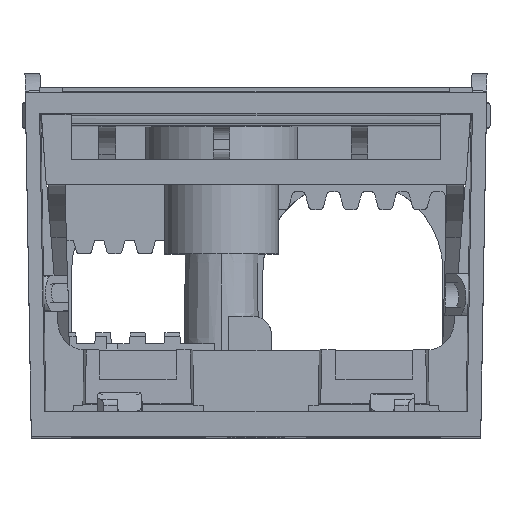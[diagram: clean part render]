
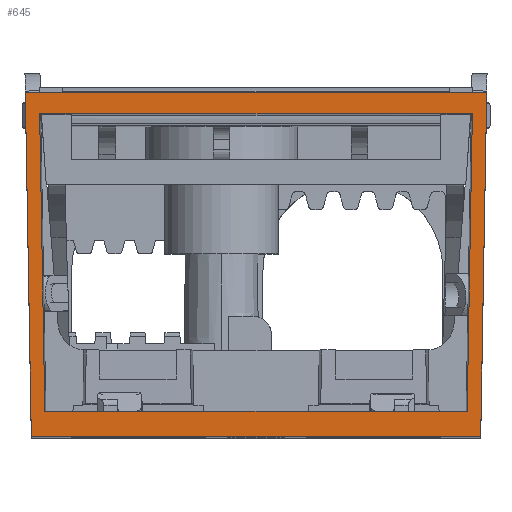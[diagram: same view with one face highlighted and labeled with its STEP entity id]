
A CAD part, top view. The second image highlights one B-rep face of the part: STEP entity #645.
In plain terms, the highlighted planar face has unit normal (0, 0, 1).
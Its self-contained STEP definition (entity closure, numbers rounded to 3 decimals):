
#38 = ORIENTED_EDGE ( 'NONE', *, *, #19101, .T. ) ;
#257 = DIRECTION ( 'NONE',  ( 0.017, 1., 0. ) ) ;
#549 = VERTEX_POINT ( 'NONE', #10194 ) ;
#645 = ADVANCED_FACE ( 'NONE', ( #21296, #4784 ), #10317, .T. ) ;
#1089 = CARTESIAN_POINT ( 'NONE',  ( -7.668, 5.982, 10.194 ) ) ;
#1183 = ORIENTED_EDGE ( 'NONE', *, *, #9588, .T. ) ;
#1219 = DIRECTION ( 'NONE',  ( 0., 0., 1. ) ) ;
#1267 = DIRECTION ( 'NONE',  ( 0.017, -1., 0. ) ) ;
#1452 = DIRECTION ( 'NONE',  ( 0., 1., 0. ) ) ;
#2230 = VECTOR ( 'NONE', #257, 1000. ) ;
#3241 = EDGE_CURVE ( 'NONE', #10849, #3573, #12952, .T. ) ;
#3261 = EDGE_CURVE ( 'NONE', #3573, #9317, #14620, .T. ) ;
#3573 = VERTEX_POINT ( 'NONE', #18519 ) ;
#3787 = CARTESIAN_POINT ( 'NONE',  ( 24.186, 29.259, 10.194 ) ) ;
#4423 = VERTEX_POINT ( 'NONE', #19016 ) ;
#4784 = FACE_OUTER_BOUND ( 'NONE', #11031, .T. ) ;
#5591 = VECTOR ( 'NONE', #21743, 1000. ) ;
#6078 = ORIENTED_EDGE ( 'NONE', *, *, #3261, .T. ) ;
#6848 = CARTESIAN_POINT ( 'NONE',  ( -7.968, 5.982, 10.194 ) ) ;
#6870 = EDGE_CURVE ( 'NONE', #549, #11576, #8957, .T. ) ;
#8278 = LINE ( 'NONE', #6848, #20443 ) ;
#8503 = EDGE_CURVE ( 'NONE', #9780, #11576, #14303, .T. ) ;
#8857 = EDGE_CURVE ( 'NONE', #4423, #9780, #11260, .T. ) ;
#8957 = LINE ( 'NONE', #10518, #5591 ) ;
#9236 = CARTESIAN_POINT ( 'NONE',  ( 25.52, 30.782, 10.194 ) ) ;
#9317 = VERTEX_POINT ( 'NONE', #20067 ) ;
#9449 = VECTOR ( 'NONE', #18547, 1000. ) ;
#9466 = CARTESIAN_POINT ( 'NONE',  ( -6.667, 6.305, 10.194 ) ) ;
#9493 = VECTOR ( 'NONE', #21345, 1000. ) ;
#9588 = EDGE_CURVE ( 'NONE', #9317, #10184, #11827, .T. ) ;
#9780 = VERTEX_POINT ( 'NONE', #14170 ) ;
#9857 = ORIENTED_EDGE ( 'NONE', *, *, #8503, .T. ) ;
#9858 = VECTOR ( 'NONE', #13173, 1000. ) ;
#10184 = VERTEX_POINT ( 'NONE', #1089 ) ;
#10194 = CARTESIAN_POINT ( 'NONE',  ( 23.811, 7.782, 10.194 ) ) ;
#10317 = PLANE ( 'NONE',  #22736 ) ;
#10448 = DIRECTION ( 'NONE',  ( 1., 0., 0. ) ) ;
#10518 = CARTESIAN_POINT ( 'NONE',  ( 23.775, 5.728, 10.194 ) ) ;
#10849 = VERTEX_POINT ( 'NONE', #13481 ) ;
#11031 = EDGE_LOOP ( 'NONE', ( #6078, #1183, #21918, #20524 ) ) ;
#11260 = LINE ( 'NONE', #9466, #9858 ) ;
#11271 = CARTESIAN_POINT ( 'NONE',  ( 24.787, 5.982, 10.194 ) ) ;
#11463 = EDGE_LOOP ( 'NONE', ( #17325, #9857, #15467, #38 ) ) ;
#11576 = VERTEX_POINT ( 'NONE', #3787 ) ;
#11827 = LINE ( 'NONE', #19098, #13312 ) ;
#12687 = EDGE_CURVE ( 'NONE', #10184, #10849, #8278, .T. ) ;
#12952 = LINE ( 'NONE', #11271, #2230 ) ;
#13173 = DIRECTION ( 'NONE',  ( -0.017, 1., 0. ) ) ;
#13312 = VECTOR ( 'NONE', #1267, 1000. ) ;
#13481 = CARTESIAN_POINT ( 'NONE',  ( 24.787, 5.982, 10.194 ) ) ;
#13612 = LINE ( 'NONE', #13952, #18769 ) ;
#13952 = CARTESIAN_POINT ( 'NONE',  ( 23.323, 7.782, 10.194 ) ) ;
#14170 = CARTESIAN_POINT ( 'NONE',  ( -7.067, 29.259, 10.194 ) ) ;
#14303 = LINE ( 'NONE', #17416, #9493 ) ;
#14620 = LINE ( 'NONE', #9236, #9449 ) ;
#15467 = ORIENTED_EDGE ( 'NONE', *, *, #6870, .F. ) ;
#17325 = ORIENTED_EDGE ( 'NONE', *, *, #8857, .T. ) ;
#17416 = CARTESIAN_POINT ( 'NONE',  ( -7.991, 29.259, 10.194 ) ) ;
#17615 = CARTESIAN_POINT ( 'NONE',  ( -7.991, 6.282, 10.194 ) ) ;
#18519 = CARTESIAN_POINT ( 'NONE',  ( 25.22, 30.782, 10.194 ) ) ;
#18547 = DIRECTION ( 'NONE',  ( -1., 0., 0. ) ) ;
#18769 = VECTOR ( 'NONE', #22908, 1000. ) ;
#19016 = CARTESIAN_POINT ( 'NONE',  ( -6.693, 7.782, 10.194 ) ) ;
#19098 = CARTESIAN_POINT ( 'NONE',  ( -8.091, 30.182, 10.194 ) ) ;
#19101 = EDGE_CURVE ( 'NONE', #549, #4423, #13612, .T. ) ;
#20067 = CARTESIAN_POINT ( 'NONE',  ( -8.101, 30.782, 10.194 ) ) ;
#20443 = VECTOR ( 'NONE', #10448, 1000. ) ;
#20524 = ORIENTED_EDGE ( 'NONE', *, *, #3241, .T. ) ;
#21296 = FACE_BOUND ( 'NONE', #11463, .T. ) ;
#21345 = DIRECTION ( 'NONE',  ( 1., 0., 0. ) ) ;
#21743 = DIRECTION ( 'NONE',  ( 0.017, 1., 0. ) ) ;
#21918 = ORIENTED_EDGE ( 'NONE', *, *, #12687, .T. ) ;
#22736 = AXIS2_PLACEMENT_3D ( 'NONE', #17615, #1219, #1452 ) ;
#22908 = DIRECTION ( 'NONE',  ( -1., 0., 0. ) ) ;
